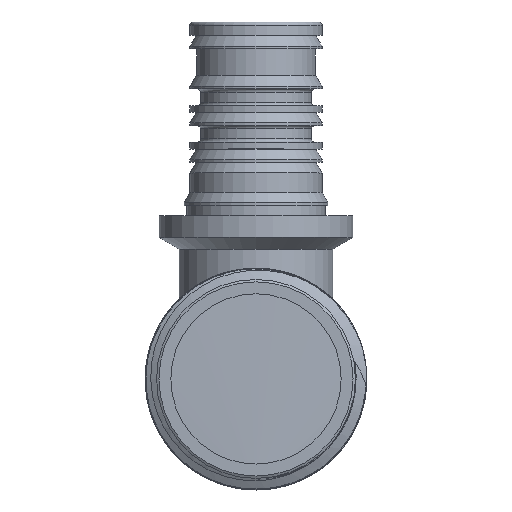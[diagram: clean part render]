
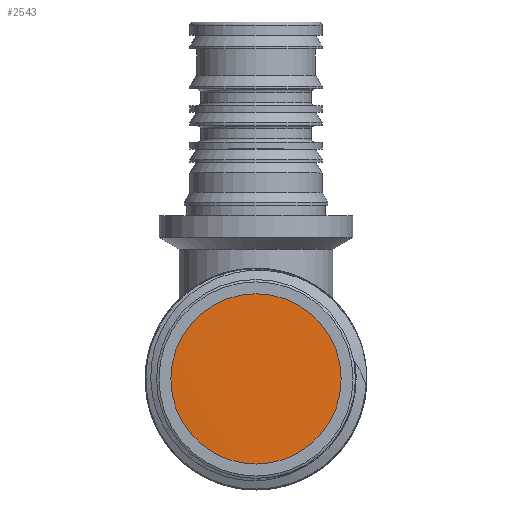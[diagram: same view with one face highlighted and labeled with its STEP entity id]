
A CAD part, top view. The second image highlights one B-rep face of the part: STEP entity #2543.
In plain terms, the highlighted cylindrical face has radius 16.6 mm (diameter 33.2 mm), a full revolution.
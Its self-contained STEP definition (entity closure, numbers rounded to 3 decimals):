
#75=B_SPLINE_CURVE_WITH_KNOTS('',3,(#4558,#4559,#4560,#4561,#4562,#4563,
#4564,#4565,#4566,#4567,#4568,#4569,#4570,#4571,#4572,#4573,#4574,#4575,
#4576,#4577,#4578,#4579,#4580,#4581,#4582,#4583,#4584,#4585,#4586,#4587,
#4588,#4589,#4590,#4591,#4592,#4593,#4594,#4595,#4596,#4597,#4598,#4599,
#4600),.UNSPECIFIED.,.F.,.F.,(4,3,3,3,3,3,3,3,3,3,3,3,3,3,4),(-43.982,
-43.717,-43.224,-42.731,-42.238,
-41.745,-41.252,-40.759,-40.266,
-39.773,-39.28,-38.787,-38.294,
-37.801,-37.699),.UNSPECIFIED.);
#135=CYLINDRICAL_SURFACE('',#2820,16.6);
#343=FACE_OUTER_BOUND('',#497,.T.);
#497=EDGE_LOOP('',(#2307,#2308,#2309));
#682=LINE('',#4555,#857);
#683=LINE('',#4557,#858);
#857=VECTOR('',#3482,16.6);
#858=VECTOR('',#3483,16.6);
#1236=VERTEX_POINT('',#4553);
#1237=VERTEX_POINT('',#4554);
#1238=VERTEX_POINT('',#4556);
#1598=EDGE_CURVE('',#1236,#1237,#682,.T.);
#1599=EDGE_CURVE('',#1236,#1238,#683,.T.);
#1600=EDGE_CURVE('',#1238,#1237,#75,.T.);
#2307=ORIENTED_EDGE('',*,*,#1598,.F.);
#2308=ORIENTED_EDGE('',*,*,#1599,.T.);
#2309=ORIENTED_EDGE('',*,*,#1600,.T.);
#2543=ADVANCED_FACE('',(#343),#135,.T.);
#2820=AXIS2_PLACEMENT_3D('',#4552,#3480,#3481);
#3480=DIRECTION('center_axis',(0.,0.,-1.));
#3481=DIRECTION('ref_axis',(0.,1.,0.));
#3482=DIRECTION('',(0.,0.,-1.));
#3483=DIRECTION('',(0.,0.,1.));
#4552=CARTESIAN_POINT('Origin',(0.,-53.5,29.472));
#4553=CARTESIAN_POINT('',(0.,-70.1,34.304));
#4554=CARTESIAN_POINT('',(0.,-70.1,32.012));
#4555=CARTESIAN_POINT('',(0.,-70.1,29.472));
#4556=CARTESIAN_POINT('',(0.,-70.1,34.324));
#4557=CARTESIAN_POINT('',(0.,-70.1,29.472));
#4558=CARTESIAN_POINT('Ctrl Pts',(0.,-70.099,
34.324));
#4559=CARTESIAN_POINT('Ctrl Pts',(-1.466,-70.098,34.291));
#4560=CARTESIAN_POINT('Ctrl Pts',(-2.932,-69.906,34.259));
#4561=CARTESIAN_POINT('Ctrl Pts',(-4.346,-69.522,34.226));
#4562=CARTESIAN_POINT('Ctrl Pts',(-6.978,-68.809,34.166));
#4563=CARTESIAN_POINT('Ctrl Pts',(-9.431,-67.432,34.105));
#4564=CARTESIAN_POINT('Ctrl Pts',(-11.412,-65.557,34.045));
#4565=CARTESIAN_POINT('Ctrl Pts',(-13.392,-63.683,33.984));
#4566=CARTESIAN_POINT('Ctrl Pts',(-14.902,-61.309,33.924));
#4567=CARTESIAN_POINT('Ctrl Pts',(-15.759,-58.72,33.863));
#4568=CARTESIAN_POINT('Ctrl Pts',(-16.617,-56.131,33.803));
#4569=CARTESIAN_POINT('Ctrl Pts',(-16.823,-53.326,33.743));
#4570=CARTESIAN_POINT('Ctrl Pts',(-16.353,-50.64,33.682));
#4571=CARTESIAN_POINT('Ctrl Pts',(-15.883,-47.953,33.622));
#4572=CARTESIAN_POINT('Ctrl Pts',(-14.737,-45.385,33.561));
#4573=CARTESIAN_POINT('Ctrl Pts',(-13.052,-43.241,33.501));
#4574=CARTESIAN_POINT('Ctrl Pts',(-11.366,-41.096,33.44));
#4575=CARTESIAN_POINT('Ctrl Pts',(-9.141,-39.376,33.38));
#4576=CARTESIAN_POINT('Ctrl Pts',(-6.642,-38.285,33.319));
#4577=CARTESIAN_POINT('Ctrl Pts',(-4.142,-37.194,33.259));
#4578=CARTESIAN_POINT('Ctrl Pts',(-1.368,-36.732,33.198));
#4579=CARTESIAN_POINT('Ctrl Pts',(1.351,-36.954,33.138));
#4580=CARTESIAN_POINT('Ctrl Pts',(4.069,-37.176,33.078));
#4581=CARTESIAN_POINT('Ctrl Pts',(6.732,-38.081,33.017));
#4582=CARTESIAN_POINT('Ctrl Pts',(9.021,-39.564,32.957));
#4583=CARTESIAN_POINT('Ctrl Pts',(11.311,-41.046,32.896));
#4584=CARTESIAN_POINT('Ctrl Pts',(13.227,-43.104,32.836));
#4585=CARTESIAN_POINT('Ctrl Pts',(14.543,-45.493,32.775));
#4586=CARTESIAN_POINT('Ctrl Pts',(15.858,-47.882,32.715));
#4587=CARTESIAN_POINT('Ctrl Pts',(16.573,-50.602,32.654));
#4588=CARTESIAN_POINT('Ctrl Pts',(16.6,-53.33,32.594));
#4589=CARTESIAN_POINT('Ctrl Pts',(16.628,-56.057,32.533));
#4590=CARTESIAN_POINT('Ctrl Pts',(15.97,-58.791,32.473));
#4591=CARTESIAN_POINT('Ctrl Pts',(14.704,-61.207,32.413));
#4592=CARTESIAN_POINT('Ctrl Pts',(13.438,-63.623,32.352));
#4593=CARTESIAN_POINT('Ctrl Pts',(11.564,-65.72,32.292));
#4594=CARTESIAN_POINT('Ctrl Pts',(9.305,-67.248,32.231));
#4595=CARTESIAN_POINT('Ctrl Pts',(7.046,-68.777,32.171));
#4596=CARTESIAN_POINT('Ctrl Pts',(4.403,-69.738,32.11));
#4597=CARTESIAN_POINT('Ctrl Pts',(1.69,-70.015,32.05));
#4598=CARTESIAN_POINT('Ctrl Pts',(1.129,-70.073,32.037));
#4599=CARTESIAN_POINT('Ctrl Pts',(0.565,-70.101,32.025));
#4600=CARTESIAN_POINT('Ctrl Pts',(0.,-70.1,
32.012));
